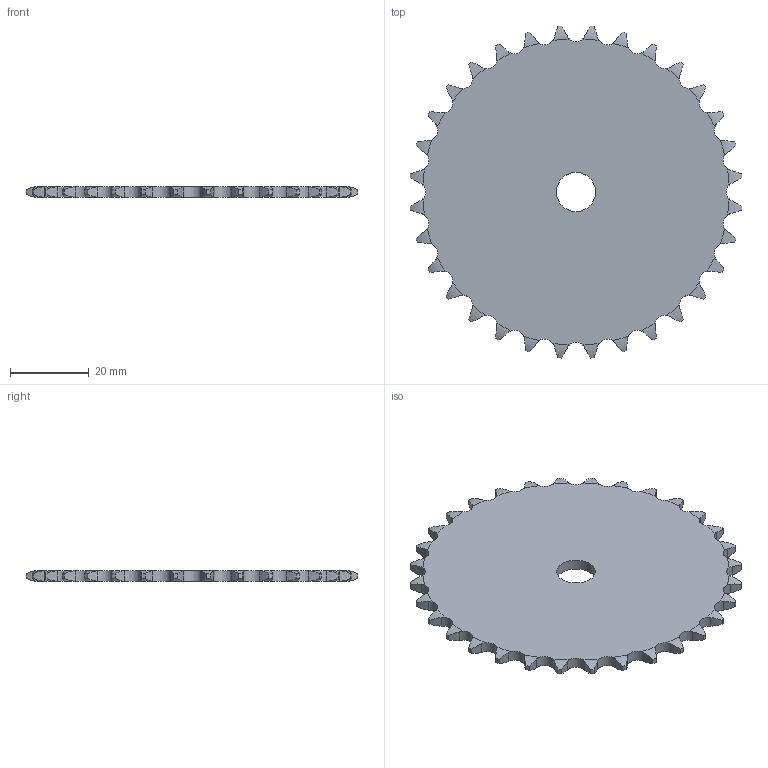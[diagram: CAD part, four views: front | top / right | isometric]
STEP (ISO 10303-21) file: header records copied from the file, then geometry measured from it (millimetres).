
FILE_DESCRIPTION((''),'2;1');
FILE_NAME('500-081-0032_PRT','2021-02-12T',('Brieden'),('Brieden'),'PRO/ENGINEER BY PARAMETRIC TECHNOLOGY CORPORATION, 2010160','PRO/ENGINEER BY PARAMETRIC TECHNOLOGY CORPORATION, 2010160','');
FILE_SCHEMA(('AUTOMOTIVE_DESIGN { 1 0 10303 214 1 1 1 1 }'));
Length unit declared in the file: millimetre
Products named in the file (1): 500-081-0032_PRT
Bounding box: 84.58 x 84.58 x 2.8 mm (x, y, z)
Volume: 13685.6 mm3; surface area: 10893.7 mm2
Topology: 1 solids, 1 shells, 196 faces, 582 edges, 388 vertices
Faces by surface type: cylinder 130, torus 64, plane 2
Entity records: 9496 total; most frequent: CARTESIAN_POINT 2735, ORIENTED_EDGE 1164, DIRECTION 914, PRESENTATION_STYLE_ASSIGNMENT 583, STYLED_ITEM 583, CURVE_STYLE 582, EDGE_CURVE 582, AXIS2_PLACEMENT_3D 392
